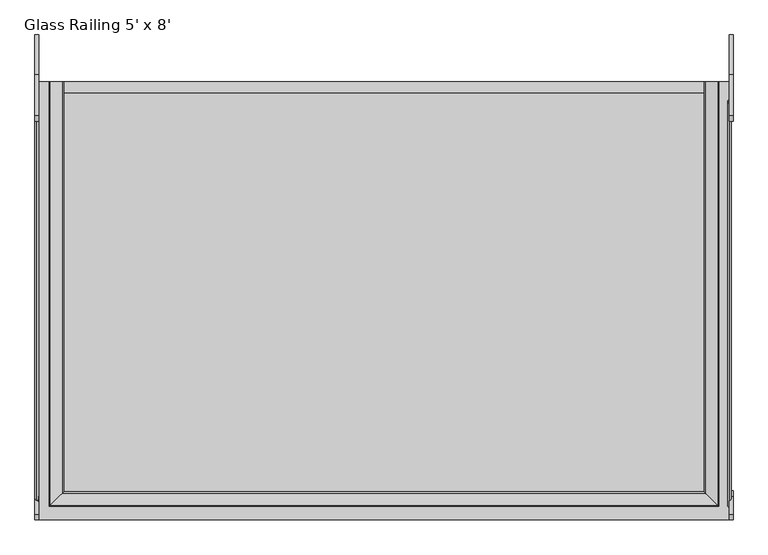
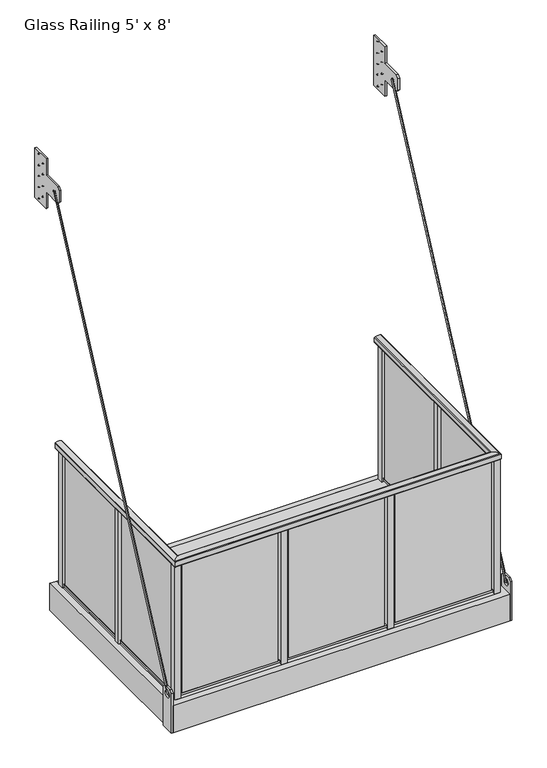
"""IFC4 building model written with IfcOpenShell, lengths in millimetres: proxy geometry, Specialty-Equipment_Endurable-Building-Products_Standard-Balcony : Glass Railing 5' x 8'."""

from ifc_helpers import new_model, si_unit, point, frame, frame_2d, origin, origin_2d, place, context, project, spatial, polyline, circle_curve, ellipse_curve, trimmed, segment, composite_curve, outline, extrude, source, transform, mapped, element, save
from ifc_brep_helpers import plane_surface, cylinder_surface, advanced_brep


def glass_railing_5_x_8_6d0afec7(model_context):
    return source(origin(), model_context, "Body", "SolidModel", [
        extrude(outline(polyline([(25.1129964, 3238.5), (164.8129964, 3238.5), (164.8129964, 2857.5), (25.1129964, 2857.5), (25.1129964, 2984.5), (-120.9370036, 2984.5), (-139.9870036, 3003.55), (-139.9870036, 3092.45), (-120.9370036, 3111.5), (25.1129964, 3111.5), (25.1129964, 3238.5)]), holes=[composite_curve([segment(trimmed(circle_curve(frame_2d((-69.85, 3048.0)), 6.35), [point((-63.5, 3048.0))], [point((-76.2, 3048.0))], True, "CARTESIAN"), True, "CONTINUOUS"), segment(trimmed(circle_curve(frame_2d((-69.85, 3048.0)), 6.35), [point((-76.2, 3048.0))], [point((-63.5, 3048.0))], True, "CARTESIAN"), True, "CONTINUOUS")], self_intersect=False), composite_curve([segment(trimmed(circle_curve(frame_2d((120.3629964, 3048.0)), 2.38125), [point((122.7442464, 3048.0))], [point((117.9817464, 3048.0))], True, "CARTESIAN"), True, "CONTINUOUS"), segment(trimmed(circle_curve(frame_2d((120.3629964, 3048.0)), 2.38125), [point((117.9817464, 3048.0))], [point((122.7442464, 3048.0))], True, "CARTESIAN"), True, "CONTINUOUS")], self_intersect=False), composite_curve([segment(trimmed(circle_curve(frame_2d((120.3629964, 3219.45)), 2.38125), [point((122.7442464, 3219.45))], [point((117.9817464, 3219.45))], True, "CARTESIAN"), True, "CONTINUOUS"), segment(trimmed(circle_curve(frame_2d((120.3629964, 3219.45)), 2.38125), [point((117.9817464, 3219.45))], [point((122.7442464, 3219.45))], True, "CARTESIAN"), True, "CONTINUOUS")], self_intersect=False), composite_curve([segment(trimmed(circle_curve(frame_2d((120.3629964, 2876.55)), 2.38125), [point((122.7442464, 2876.55))], [point((117.9817464, 2876.55))], True, "CARTESIAN"), True, "CONTINUOUS"), segment(trimmed(circle_curve(frame_2d((120.3629964, 2876.55)), 2.38125), [point((117.9817464, 2876.55))], [point((122.7442464, 2876.55))], True, "CARTESIAN"), True, "CONTINUOUS")], self_intersect=False), composite_curve([segment(trimmed(circle_curve(frame_2d((120.3629964, 2965.45)), 2.38125), [point((122.7442464, 2965.45))], [point((117.9817464, 2965.45))], True, "CARTESIAN"), True, "CONTINUOUS"), segment(trimmed(circle_curve(frame_2d((120.3629964, 2965.45)), 2.38125), [point((117.9817464, 2965.45))], [point((122.7442464, 2965.45))], True, "CARTESIAN"), True, "CONTINUOUS")], self_intersect=False), composite_curve([segment(trimmed(circle_curve(frame_2d((120.3629964, 3130.55)), 2.38125), [point((122.7442464, 3130.55))], [point((117.9817464, 3130.55))], True, "CARTESIAN"), True, "CONTINUOUS"), segment(trimmed(circle_curve(frame_2d((120.3629964, 3130.55)), 2.38125), [point((117.9817464, 3130.55))], [point((122.7442464, 3130.55))], True, "CARTESIAN"), True, "CONTINUOUS")], self_intersect=False), composite_curve([segment(trimmed(circle_curve(frame_2d((69.5629964, 3092.45)), 2.38125), [point((71.9442464, 3092.45))], [point((67.1817464, 3092.45))], True, "CARTESIAN"), True, "CONTINUOUS"), segment(trimmed(circle_curve(frame_2d((69.5629964, 3092.45)), 2.38125), [point((67.1817464, 3092.45))], [point((71.9442464, 3092.45))], True, "CARTESIAN"), True, "CONTINUOUS")], self_intersect=False), composite_curve([segment(trimmed(circle_curve(frame_2d((69.5629964, 3175.0)), 2.38125), [point((71.9442464, 3175.0))], [point((67.1817464, 3175.0))], True, "CARTESIAN"), True, "CONTINUOUS"), segment(trimmed(circle_curve(frame_2d((69.5629964, 3175.0)), 2.38125), [point((67.1817464, 3175.0))], [point((71.9442464, 3175.0))], True, "CARTESIAN"), True, "CONTINUOUS")], self_intersect=False), composite_curve([segment(trimmed(circle_curve(frame_2d((69.5629964, 3003.55)), 2.38125), [point((71.9442464, 3003.55))], [point((67.1817464, 3003.55))], True, "CARTESIAN"), True, "CONTINUOUS"), segment(trimmed(circle_curve(frame_2d((69.5629964, 3003.55)), 2.38125), [point((67.1817464, 3003.55))], [point((71.9442464, 3003.55))], True, "CARTESIAN"), True, "CONTINUOUS")], self_intersect=False), composite_curve([segment(trimmed(circle_curve(frame_2d((69.5629964, 2921.0)), 2.38125), [point((71.9442464, 2921.0))], [point((67.1817464, 2921.0))], True, "CARTESIAN"), True, "CONTINUOUS"), segment(trimmed(circle_curve(frame_2d((69.5629964, 2921.0)), 2.38125), [point((67.1817464, 2921.0))], [point((71.9442464, 2921.0))], True, "CARTESIAN"), True, "CONTINUOUS")], self_intersect=False)]), frame((-1231.9, 0.0, 0.0), z_axis=(1.0, 0.0, 0.0), x_axis=(0.0, 1.0, 0.0)), (0.0, 0.0, 1.0), 12.7),
        extrude(outline(polyline([(25.1129964, 3238.5), (164.8129964, 3238.5), (164.8129964, 2857.5), (25.1129964, 2857.5), (25.1129964, 2984.5), (-120.9370036, 2984.5), (-139.9870036, 3003.55), (-139.9870036, 3092.45), (-120.9370036, 3111.5), (25.1129964, 3111.5), (25.1129964, 3238.5)]), holes=[composite_curve([segment(trimmed(circle_curve(frame_2d((-69.85, 3048.0)), 6.35), [point((-63.5, 3048.0))], [point((-76.2, 3048.0))], True, "CARTESIAN"), True, "CONTINUOUS"), segment(trimmed(circle_curve(frame_2d((-69.85, 3048.0)), 6.35), [point((-76.2, 3048.0))], [point((-63.5, 3048.0))], True, "CARTESIAN"), True, "CONTINUOUS")], self_intersect=False), composite_curve([segment(trimmed(circle_curve(frame_2d((120.3629964, 3048.0)), 2.38125), [point((122.7442464, 3048.0))], [point((117.9817464, 3048.0))], True, "CARTESIAN"), True, "CONTINUOUS"), segment(trimmed(circle_curve(frame_2d((120.3629964, 3048.0)), 2.38125), [point((117.9817464, 3048.0))], [point((122.7442464, 3048.0))], True, "CARTESIAN"), True, "CONTINUOUS")], self_intersect=False), composite_curve([segment(trimmed(circle_curve(frame_2d((120.3629964, 3219.45)), 2.38125), [point((122.7442464, 3219.45))], [point((117.9817464, 3219.45))], True, "CARTESIAN"), True, "CONTINUOUS"), segment(trimmed(circle_curve(frame_2d((120.3629964, 3219.45)), 2.38125), [point((117.9817464, 3219.45))], [point((122.7442464, 3219.45))], True, "CARTESIAN"), True, "CONTINUOUS")], self_intersect=False), composite_curve([segment(trimmed(circle_curve(frame_2d((120.3629964, 2876.55)), 2.38125), [point((122.7442464, 2876.55))], [point((117.9817464, 2876.55))], True, "CARTESIAN"), True, "CONTINUOUS"), segment(trimmed(circle_curve(frame_2d((120.3629964, 2876.55)), 2.38125), [point((117.9817464, 2876.55))], [point((122.7442464, 2876.55))], True, "CARTESIAN"), True, "CONTINUOUS")], self_intersect=False), composite_curve([segment(trimmed(circle_curve(frame_2d((120.3629964, 2965.45)), 2.38125), [point((122.7442464, 2965.45))], [point((117.9817464, 2965.45))], True, "CARTESIAN"), True, "CONTINUOUS"), segment(trimmed(circle_curve(frame_2d((120.3629964, 2965.45)), 2.38125), [point((117.9817464, 2965.45))], [point((122.7442464, 2965.45))], True, "CARTESIAN"), True, "CONTINUOUS")], self_intersect=False), composite_curve([segment(trimmed(circle_curve(frame_2d((120.3629964, 3130.55)), 2.38125), [point((122.7442464, 3130.55))], [point((117.9817464, 3130.55))], True, "CARTESIAN"), True, "CONTINUOUS"), segment(trimmed(circle_curve(frame_2d((120.3629964, 3130.55)), 2.38125), [point((117.9817464, 3130.55))], [point((122.7442464, 3130.55))], True, "CARTESIAN"), True, "CONTINUOUS")], self_intersect=False), composite_curve([segment(trimmed(circle_curve(frame_2d((69.5629964, 3092.45)), 2.38125), [point((71.9442464, 3092.45))], [point((67.1817464, 3092.45))], True, "CARTESIAN"), True, "CONTINUOUS"), segment(trimmed(circle_curve(frame_2d((69.5629964, 3092.45)), 2.38125), [point((67.1817464, 3092.45))], [point((71.9442464, 3092.45))], True, "CARTESIAN"), True, "CONTINUOUS")], self_intersect=False), composite_curve([segment(trimmed(circle_curve(frame_2d((69.5629964, 3175.0)), 2.38125), [point((71.9442464, 3175.0))], [point((67.1817464, 3175.0))], True, "CARTESIAN"), True, "CONTINUOUS"), segment(trimmed(circle_curve(frame_2d((69.5629964, 3175.0)), 2.38125), [point((67.1817464, 3175.0))], [point((71.9442464, 3175.0))], True, "CARTESIAN"), True, "CONTINUOUS")], self_intersect=False), composite_curve([segment(trimmed(circle_curve(frame_2d((69.5629964, 3003.55)), 2.38125), [point((71.9442464, 3003.55))], [point((67.1817464, 3003.55))], True, "CARTESIAN"), True, "CONTINUOUS"), segment(trimmed(circle_curve(frame_2d((69.5629964, 3003.55)), 2.38125), [point((67.1817464, 3003.55))], [point((71.9442464, 3003.55))], True, "CARTESIAN"), True, "CONTINUOUS")], self_intersect=False), composite_curve([segment(trimmed(circle_curve(frame_2d((69.5629964, 2921.0)), 2.38125), [point((71.9442464, 2921.0))], [point((67.1817464, 2921.0))], True, "CARTESIAN"), True, "CONTINUOUS"), segment(trimmed(circle_curve(frame_2d((69.5629964, 2921.0)), 2.38125), [point((67.1817464, 2921.0))], [point((71.9442464, 2921.0))], True, "CARTESIAN"), True, "CONTINUOUS")], self_intersect=False)]), frame((1219.2, 0.0, 0.0), z_axis=(1.0, 0.0, 0.0), x_axis=(0.0, 1.0, 0.0)), (0.0, 0.0, 1.0), 12.7),
        extrude(outline(polyline([(-1545.43125, -203.2), (-1545.43125, 96.7382813), (-1526.38125, 115.7882813), (-1462.88125, 115.7882813), (-1443.83125, 96.7382813), (-1443.83125, -203.2), (-1545.43125, -203.2)]), holes=[composite_curve([segment(trimmed(circle_curve(frame_2d((-1494.63125, 64.9882813)), 25.4), [point((-1520.03125, 64.9882813))], [point((-1469.23125, 64.9882813))], True, "CARTESIAN"), True, "CONTINUOUS"), segment(trimmed(circle_curve(frame_2d((-1494.63125, 64.9882813)), 25.4), [point((-1469.23125, 64.9882813))], [point((-1520.03125, 64.9882813))], True, "CARTESIAN"), True, "CONTINUOUS")], self_intersect=False)]), frame((-1231.9, 0.0, 0.0), z_axis=(1.0, 0.0, 0.0), x_axis=(0.0, 1.0, 0.0)), (0.0, 0.0, 1.0), 12.7),
        extrude(outline(polyline([(-1545.43125, -203.2), (-1545.43125, 96.7382812), (-1526.38125, 115.7882812), (-1462.88125, 115.7882812), (-1443.83125, 96.7382812), (-1443.83125, -203.2), (-1545.43125, -203.2)]), holes=[composite_curve([segment(trimmed(circle_curve(frame_2d((-1494.63125, 64.9882812)), 25.4), [point((-1520.03125, 64.9882812))], [point((-1469.23125, 64.9882812))], True, "CARTESIAN"), True, "CONTINUOUS"), segment(trimmed(circle_curve(frame_2d((-1494.63125, 64.9882812)), 25.4), [point((-1469.23125, 64.9882812))], [point((-1520.03125, 64.9882812))], True, "CARTESIAN"), True, "CONTINUOUS")], self_intersect=False)]), frame((1219.2, 0.0, 0.0), z_axis=(1.0, 0.0, 0.0), x_axis=(0.0, 1.0, 0.0)), (0.0, 0.0, 1.0), 12.7),
        extrude(outline(polyline([(542.925, -38.1), (542.925, -1494.63125), (504.825, -1494.63125), (504.825, -38.1), (542.925, -38.1)])), frame((0.0, 0.0, -203.2), z_axis=(0.0, 0.0, 1.0), x_axis=(1.0, 0.0, 0.0)), (0.0, 0.0, 1.0), 177.8),
        extrude(outline(polyline([(19.05, -38.1), (19.05, -1494.63125), (-19.05, -1494.63125), (-19.05, -38.1), (19.05, -38.1)])), frame((0.0, 0.0, -203.2), z_axis=(0.0, 0.0, 1.0), x_axis=(1.0, 0.0, 0.0)), (0.0, 0.0, 1.0), 177.8),
        extrude(outline(polyline([(-504.825, -38.1), (-504.825, -1494.63125), (-542.925, -1494.63125), (-542.925, -38.1), (-504.825, -38.1)])), frame((0.0, 0.0, -203.2), z_axis=(0.0, 0.0, 1.0), x_axis=(1.0, 0.0, 0.0)), (0.0, 0.0, 1.0), 177.8),
        extrude(outline(polyline([(1066.8, -38.1), (1066.8, -1494.63125), (1028.7, -1494.63125), (1028.7, -38.1), (1066.8, -38.1)])), frame((0.0, 0.0, -203.2), z_axis=(0.0, 0.0, 1.0), x_axis=(1.0, 0.0, 0.0)), (0.0, 0.0, 1.0), 177.8),
        extrude(outline(polyline([(1163.6375, -80.9625), (1163.6375, -744.934375), (1147.7625, -744.934375), (1147.7625, -80.9625), (1163.6375, -80.9625)])), frame((0.0, 0.0, 9.525), z_axis=(0.0, 0.0, 1.0), x_axis=(1.0, 0.0, 0.0)), (0.0, 0.0, 1.0), 15.875),
        extrude(outline(polyline([(1163.6375, -787.796875), (1163.6375, -1451.76875), (1147.7625, -1451.76875), (1147.7625, -787.796875), (1163.6375, -787.796875)])), frame((0.0, 0.0, 9.525), z_axis=(0.0, 0.0, 1.0), x_axis=(1.0, 0.0, 0.0)), (0.0, 0.0, 1.0), 15.875),
        extrude(outline(polyline([(-1163.6375, -80.9625), (-1147.7625, -80.9625), (-1147.7625, -744.934375), (-1163.6375, -744.934375), (-1163.6375, -80.9625)])), frame((0.0, 0.0, 9.525), z_axis=(0.0, 0.0, 1.0), x_axis=(1.0, 0.0, 0.0)), (0.0, 0.0, 1.0), 15.875),
        extrude(outline(polyline([(-1163.6375, -787.796875), (-1147.7625, -787.796875), (-1147.7625, -1451.76875), (-1163.6375, -1451.76875), (-1163.6375, -787.796875)])), frame((0.0, 0.0, 9.525), z_axis=(0.0, 0.0, 1.0), x_axis=(1.0, 0.0, 0.0)), (0.0, 0.0, 1.0), 15.875),
        extrude(outline(polyline([(-344.7520833, -1465.2625), (344.7520833, -1465.2625), (344.7520833, -1481.1375), (-344.7520833, -1481.1375), (-344.7520833, -1465.2625)])), frame((0.0, 0.0, 25.4), z_axis=(0.0, 0.0, 1.0), x_axis=(1.0, 0.0, 0.0)), (0.0, 0.0, 1.0), 990.6),
        extrude(outline(polyline([(-363.8020833, -1465.2625), (363.8020833, -1465.2625), (363.8020833, -1481.1375), (-363.8020833, -1481.1375), (-363.8020833, -1465.2625)])), frame((0.0, 0.0, 9.525), z_axis=(0.0, 0.0, 1.0), x_axis=(1.0, 0.0, 0.0)), (0.0, 0.0, 1.0), 15.875),
        extrude(outline(polyline([(-1162.05, -730.646875), (-1162.05, -95.25), (-1149.35, -95.25), (-1149.35, -730.646875), (-1162.05, -730.646875)])), frame((0.0, 0.0, 25.4), z_axis=(0.0, 0.0, 1.0), x_axis=(1.0, 0.0, 0.0)), (0.0, 0.0, 1.0), 990.6),
        extrude(outline(polyline([(1162.05, -730.646875), (1149.35, -730.646875), (1149.35, -95.25), (1162.05, -95.25), (1162.05, -730.646875)])), frame((0.0, 0.0, 25.4), z_axis=(0.0, 0.0, 1.0), x_axis=(1.0, 0.0, 0.0)), (0.0, 0.0, 1.0), 990.6),
        extrude(outline(polyline([(-363.8020833, -1451.76875), (-363.8020833, -1494.63125), (-406.6645833, -1494.63125), (-406.6645833, -1451.76875), (-363.8020833, -1451.76875)])), frame((0.0, 0.0, -203.2), z_axis=(0.0, 0.0, 1.0), x_axis=(1.0, 0.0, 0.0)), (0.0, 0.0, 1.0), 1219.2),
        extrude(outline(polyline([(406.6645833, -1451.76875), (406.6645833, -1494.63125), (363.8020833, -1494.63125), (363.8020833, -1451.76875), (406.6645833, -1451.76875)])), frame((0.0, 0.0, -203.2), z_axis=(0.0, 0.0, 1.0), x_axis=(1.0, 0.0, 0.0)), (0.0, 0.0, 1.0), 1219.2),
        extrude(outline(polyline([(1134.26875, -38.1), (1177.13125, -38.1), (1177.13125, -80.9625), (1134.26875, -80.9625), (1134.26875, -38.1)])), frame((0.0, 0.0, -203.2), z_axis=(0.0, 0.0, 1.0), x_axis=(1.0, 0.0, 0.0)), (0.0, 0.0, 1.0), 1219.2),
        extrude(outline(polyline([(-1134.26875, -38.1), (-1134.26875, -80.9625), (-1177.13125, -80.9625), (-1177.13125, -38.1), (-1134.26875, -38.1)])), frame((0.0, 0.0, -203.2), z_axis=(0.0, 0.0, 1.0), x_axis=(1.0, 0.0, 0.0)), (0.0, 0.0, 1.0), 1219.2),
        extrude(outline(polyline([(1177.13125, -744.934375), (1177.13125, -787.796875), (1134.26875, -787.796875), (1134.26875, -744.934375), (1177.13125, -744.934375)])), frame((0.0, 0.0, -203.2), z_axis=(0.0, 0.0, 1.0), x_axis=(1.0, 0.0, 0.0)), (0.0, 0.0, 1.0), 1219.2),
        extrude(outline(polyline([(-1134.26875, -744.934375), (-1134.26875, -787.796875), (-1177.13125, -787.796875), (-1177.13125, -744.934375), (-1134.26875, -744.934375)])), frame((0.0, 0.0, -203.2), z_axis=(0.0, 0.0, 1.0), x_axis=(1.0, 0.0, 0.0)), (0.0, 0.0, 1.0), 1219.2),
        extrude(outline(polyline([(1168.4, 0.0), (1168.4, -38.1), (-1168.4, -38.1), (-1168.4, 0.0), (1168.4, 0.0)])), frame((0.0, 0.0, -203.2), z_axis=(0.0, 0.0, 1.0), x_axis=(1.0, 0.0, 0.0)), (0.0, 0.0, 1.0), 203.2),
        extrude(outline(polyline([(-1028.7, -38.1), (-1028.7, -1494.63125), (-1066.8, -1494.63125), (-1066.8, -38.1), (-1028.7, -38.1)])), frame((0.0, 0.0, -203.2), z_axis=(0.0, 0.0, 1.0), x_axis=(1.0, 0.0, 0.0)), (0.0, 0.0, 1.0), 177.8),
        extrude(outline(polyline([(1119.98125, -1465.2625), (1119.98125, -1481.1375), (425.7145833, -1481.1375), (425.7145833, -1465.2625), (1119.98125, -1465.2625)])), frame((0.0, 0.0, 25.4), z_axis=(0.0, 0.0, 1.0), x_axis=(1.0, 0.0, 0.0)), (0.0, 0.0, 1.0), 990.6),
        extrude(outline(polyline([(-1119.98125, -1481.1375), (-1119.98125, -1465.2625), (-425.7145833, -1465.2625), (-425.7145833, -1481.1375), (-1119.98125, -1481.1375)])), frame((0.0, 0.0, 25.4), z_axis=(0.0, 0.0, 1.0), x_axis=(1.0, 0.0, 0.0)), (0.0, 0.0, 1.0), 990.6),
        extrude(outline(polyline([(1162.05, -802.084375), (1162.05, -1437.48125), (1149.35, -1437.48125), (1149.35, -802.084375), (1162.05, -802.084375)])), frame((0.0, 0.0, 25.4), z_axis=(0.0, 0.0, 1.0), x_axis=(1.0, 0.0, 0.0)), (0.0, 0.0, 1.0), 990.6),
        extrude(outline(polyline([(-1149.35, -802.084375), (-1149.35, -1451.76875), (-1162.05, -1451.76875), (-1162.05, -802.084375), (-1149.35, -802.084375)])), frame((0.0, 0.0, 25.4), z_axis=(0.0, 0.0, 1.0), x_axis=(1.0, 0.0, 0.0)), (0.0, 0.0, 1.0), 990.6),
        extrude(outline(polyline([(-1134.26875, -1451.76875), (-1134.26875, -1494.63125), (-1177.13125, -1494.63125), (-1177.13125, -1451.76875), (-1134.26875, -1451.76875)])), frame((0.0, 0.0, -203.2), z_axis=(0.0, 0.0, 1.0), x_axis=(1.0, 0.0, 0.0)), (0.0, 0.0, 1.0), 1219.2),
        extrude(outline(polyline([(1177.13125, -1451.76875), (1177.13125, -1494.63125), (1134.26875, -1494.63125), (1134.26875, -1451.76875), (1177.13125, -1451.76875)])), frame((0.0, 0.0, -203.2), z_axis=(0.0, 0.0, 1.0), x_axis=(1.0, 0.0, 0.0)), (0.0, 0.0, 1.0), 1219.2),
        extrude(outline(polyline([(406.6645833, -1465.2625), (1134.26875, -1465.2625), (1134.26875, -1481.1375), (406.6645833, -1481.1375), (406.6645833, -1465.2625)])), frame((0.0, 0.0, 9.525), z_axis=(0.0, 0.0, 1.0), x_axis=(1.0, 0.0, 0.0)), (0.0, 0.0, 1.0), 15.875),
        extrude(outline(polyline([(-406.6645833, -1465.2625), (-406.6645833, -1481.1375), (-1134.26875, -1481.1375), (-1134.26875, -1465.2625), (-406.6645833, -1465.2625)])), frame((0.0, 0.0, 9.525), z_axis=(0.0, 0.0, 1.0), x_axis=(1.0, 0.0, 0.0)), (0.0, 0.0, 1.0), 15.875),
        extrude(outline(polyline([(-1168.4, -1494.63125), (-1168.4, -38.1), (1168.4, -38.1), (1168.4, -1494.63125), (-1168.4, -1494.63125)])), frame((0.0, 0.0, -25.4), z_axis=(0.0, 0.0, 1.0), x_axis=(1.0, 0.0, 0.0)), (0.0, 0.0, 1.0), 25.4),
        extrude(outline(composite_curve([segment(trimmed(circle_curve(frame_2d((-6.35, 0.0)), 6.35), [point((-6.35, 6.35))], [point((-6.35, -6.35))], False, "CARTESIAN"), True, "CONTINUOUS"), segment(trimmed(circle_curve(frame_2d((-6.35, 0.0)), 6.35), [point((-6.35, -6.35))], [point((-6.35, 6.35))], False, "CARTESIAN"), True, "CONTINUOUS")], self_intersect=False)), frame((-1219.2, -1494.63125, 64.9882812), z_axis=(0.0, 0.43099346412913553, 0.9023550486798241), x_axis=(1.0, 0.0, 0.0)), (0.0, 0.0, 1.0), 3305.8070912),
        extrude(outline(composite_curve([segment(trimmed(circle_curve(origin_2d(), 6.35), [point((0.0, 6.35))], [point((0.0, -6.35))], False, "CARTESIAN"), True, "CONTINUOUS"), segment(trimmed(circle_curve(origin_2d(), 6.35), [point((0.0, -6.35))], [point((0.0, 6.35))], False, "CARTESIAN"), True, "CONTINUOUS")], self_intersect=False)), frame((1219.2, -1494.63125, 64.9882812), z_axis=(0.0, 0.4309934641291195, 0.9023550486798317), x_axis=(-1.0, 0.0, 0.0)), (0.0, 0.0, 1.0), 3305.8070912),
        extrude(outline(polyline([(-1219.2, 0.0), (-1168.4, 0.0), (-1168.4, -1494.63125), (1168.4, -1494.63125), (1168.4, 0.0), (1219.2, 0.0), (1219.2, -1545.43125), (-1219.2, -1545.43125), (-1219.2, 0.0)])), frame((0.0, 0.0, -203.2), z_axis=(0.0, 0.0, 1.0), x_axis=(1.0, 0.0, 0.0)), (0.0, 0.0, 1.0), 203.2),
        advanced_brep(
        [(1181.1, 0.0, 1056.4003287), (1181.1, 0.0, 1022.35), (1174.75, 0.0, 1016.0), (1136.65, 0.0, 1016.0), (1130.3, 0.0, 1022.35), (1130.3, 0.0, 1056.4003287), (1134.0669492, 0.0, 1062.2012207), (1177.3330508, 0.0, 1062.2012207), (-1181.1, 0.0, 1056.4003287), (-1177.3330508, 0.0, 1062.2012207), (-1134.0669492, 0.0, 1062.2012207), (-1130.3, 0.0, 1056.4003287), (-1130.3, 0.0, 1022.35), (-1136.65, 0.0, 1016.0), (-1174.75, 0.0, 1016.0), (-1181.1, 0.0, 1022.35), (1181.1, -1498.6, 1056.4003287), (1181.1, -1498.6, 1022.35), (1174.75, -1492.25, 1016.0), (-1174.75, -1492.25, 1016.0), (-1136.65, -1454.15, 1016.0), (1136.65, -1454.15, 1016.0), (1130.3, -1447.8, 1022.35), (1130.3, -1447.8, 1056.4003287), (1134.0669492, -1451.5669492, 1062.2012207), (1177.3330508, -1494.8330508, 1062.2012207), (-1181.1, -1498.6, 1056.4003287), (-1181.1, -1498.6, 1022.35), (-1130.3, -1447.8, 1022.35), (-1130.3, -1447.8, 1056.4003287), (-1134.0669492, -1451.5669492, 1062.2012207), (-1177.3330508, -1494.8330508, 1062.2012207)],
        [
            (0, 1),
            (1, 2, circle_curve(frame((1174.75, 0.0, 1022.35), z_axis=(0.0, 1.0, 0.0), x_axis=(1.0, 0.0, 0.0)), 6.35)),
            (2, 3),
            (3, 4, circle_curve(frame((1136.65, 0.0, 1022.35), z_axis=(0.0, 1.0, 0.0), x_axis=(1.0, 0.0, 0.0)), 6.35)),
            (4, 5),
            (5, 6, circle_curve(frame((1136.65, 0.0, 1056.4003287), z_axis=(0.0, 1.0, 0.0), x_axis=(1.0, 0.0, 0.0)), 6.35)),
            (6, 7, circle_curve(frame((1155.7, 0.0, 1013.61875), z_axis=(0.0, 1.0, 0.0), x_axis=(1.0, 0.0, 0.0)), 53.18125)),
            (7, 0, circle_curve(frame((1174.75, 0.0, 1056.4003287), z_axis=(0.0, 1.0, 0.0), x_axis=(1.0, 0.0, 0.0)), 6.35)),
            (8, 9, circle_curve(frame((-1174.75, 0.0, 1056.4003287), z_axis=(0.0, 1.0, 0.0), x_axis=(-1.0, 0.0, 0.0)), 6.35)),
            (9, 10, circle_curve(frame((-1155.7, 0.0, 1013.61875), z_axis=(0.0, 1.0, 0.0), x_axis=(-1.0, 0.0, 0.0)), 53.18125)),
            (10, 11, circle_curve(frame((-1136.65, 0.0, 1056.4003287), z_axis=(0.0, 1.0, 0.0), x_axis=(-1.0, 0.0, 0.0)), 6.35)),
            (11, 12),
            (12, 13, circle_curve(frame((-1136.65, 0.0, 1022.35), z_axis=(0.0, 1.0, 0.0), x_axis=(-1.0, 0.0, 0.0)), 6.35)),
            (13, 14),
            (14, 15, circle_curve(frame((-1174.75, 0.0, 1022.35), z_axis=(0.0, 1.0, 0.0), x_axis=(-1.0, 0.0, 0.0)), 6.35)),
            (15, 8),
            (0, 16),
            (16, 17),
            (17, 1),
            (17, 18, ellipse_curve(frame((1174.75, -1492.25, 1022.35), z_axis=(0.7071067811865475, 0.7071067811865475, 0.0), x_axis=(-0.7071067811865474, 0.7071067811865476, 0.0)), 8.9802561, 6.35)),
            (18, 2),
            (18, 19),
            (19, 14),
            (13, 20),
            (20, 21),
            (21, 3),
            (21, 22, ellipse_curve(frame((1136.65, -1454.15, 1022.35), z_axis=(0.7071067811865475, 0.7071067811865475, 0.0), x_axis=(-0.7071067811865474, 0.7071067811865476, 0.0)), 8.9802561, 6.35)),
            (22, 4),
            (22, 23),
            (23, 5),
            (23, 24, ellipse_curve(frame((1136.65, -1454.15, 1056.4003287), z_axis=(0.7071067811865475, 0.7071067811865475, 0.0), x_axis=(-0.7071067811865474, 0.7071067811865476, 0.0)), 8.9802561, 6.35)),
            (24, 6),
            (24, 25, ellipse_curve(frame((1155.7, -1473.2, 1013.61875), z_axis=(0.7071067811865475, 0.7071067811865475, 0.0), x_axis=(-0.7071067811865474, 0.7071067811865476, 0.0)), 75.209645, 53.18125)),
            (25, 7),
            (25, 16, ellipse_curve(frame((1174.75, -1492.25, 1056.4003287), z_axis=(0.7071067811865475, 0.7071067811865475, 0.0), x_axis=(-0.7071067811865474, 0.7071067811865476, 0.0)), 8.9802561, 6.35)),
            (16, 26),
            (26, 27),
            (27, 17),
            (27, 19, ellipse_curve(frame((-1174.75, -1492.25, 1022.35), z_axis=(0.7071067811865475, -0.7071067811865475, 0.0), x_axis=(0.7071067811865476, 0.7071067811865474, 0.0)), 8.9802561, 6.35)),
            (20, 28, ellipse_curve(frame((-1136.65, -1454.15, 1022.35), z_axis=(0.7071067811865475, -0.7071067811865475, 0.0), x_axis=(0.7071067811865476, 0.7071067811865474, 0.0)), 8.9802561, 6.35)),
            (28, 22),
            (28, 29),
            (29, 23),
            (29, 30, ellipse_curve(frame((-1136.65, -1454.15, 1056.4003287), z_axis=(0.7071067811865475, -0.7071067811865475, 0.0), x_axis=(0.7071067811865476, 0.7071067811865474, 0.0)), 8.9802561, 6.35)),
            (30, 24),
            (30, 31, ellipse_curve(frame((-1155.7, -1473.2, 1013.61875), z_axis=(0.7071067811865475, -0.7071067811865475, 0.0), x_axis=(0.7071067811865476, 0.7071067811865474, 0.0)), 75.209645, 53.18125)),
            (31, 25),
            (31, 26, ellipse_curve(frame((-1174.75, -1492.25, 1056.4003287), z_axis=(0.7071067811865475, -0.7071067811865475, 0.0), x_axis=(0.7071067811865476, 0.7071067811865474, 0.0)), 8.9802561, 6.35)),
            (26, 8),
            (15, 27),
            (12, 28),
            (11, 29),
            (10, 30),
            (9, 31),
        ],
        [
            plane_surface(frame((1155.7, 0.0, 0.0), z_axis=(0.0, 1.0, 0.0), x_axis=(0.0, 0.0, 1.0))),
            plane_surface(frame((-1155.7, 0.0, 0.0), z_axis=(0.0, 1.0, 0.0), x_axis=(0.0, 0.0, 1.0))),
            plane_surface(frame((1181.1, 0.0, 1056.4003287), z_axis=(1.0, 0.0, 0.0), x_axis=(0.0, -1.0, 0.0))),
            cylinder_surface(frame((1174.75, 0.0, 1022.35), z_axis=(0.0, 1.0, 0.0), x_axis=(1.0, 0.0, 0.0)), 6.35),
            plane_surface(frame((1174.75, 0.0, 1016.0), z_axis=(0.0, 0.0, -1.0), x_axis=(0.0, -1.0, 0.0))),
            cylinder_surface(frame((1136.65, 0.0, 1022.35), z_axis=(0.0, 1.0, 0.0), x_axis=(1.0, 0.0, 0.0)), 6.35),
            plane_surface(frame((1130.3, 0.0, 1022.35), z_axis=(-1.0, 0.0, 0.0), x_axis=(0.0, -1.0, 0.0))),
            cylinder_surface(frame((1136.65, 0.0, 1056.4003287), z_axis=(0.0, 1.0, 0.0), x_axis=(1.0, 0.0, 0.0)), 6.35),
            cylinder_surface(frame((1155.7, 0.0, 1013.61875), z_axis=(0.0, 1.0, 0.0), x_axis=(1.0, 0.0, 0.0)), 53.18125),
            cylinder_surface(frame((1174.75, 0.0, 1056.4003287), z_axis=(0.0, 1.0, 0.0), x_axis=(1.0, 0.0, 0.0)), 6.35),
            plane_surface(frame((1181.1, -1498.6, 1056.4003287), z_axis=(0.0, -1.0, 0.0), x_axis=(-1.0, 0.0, 0.0))),
            cylinder_surface(frame((1155.7, -1492.25, 1022.35), z_axis=(1.0, 0.0, 0.0), x_axis=(0.0, -1.0, 0.0)), 6.35),
            cylinder_surface(frame((1155.7, -1454.15, 1022.35), z_axis=(1.0, 0.0, 0.0), x_axis=(0.0, -1.0, 0.0)), 6.35),
            plane_surface(frame((1130.3, -1447.8, 1022.35), z_axis=(0.0, 1.0, 0.0), x_axis=(-1.0, 0.0, 0.0))),
            cylinder_surface(frame((1155.7, -1454.15, 1056.4003287), z_axis=(1.0, 0.0, 0.0), x_axis=(0.0, -1.0, 0.0)), 6.35),
            cylinder_surface(frame((1155.7, -1473.2, 1013.61875), z_axis=(1.0, 0.0, 0.0), x_axis=(0.0, -1.0, 0.0)), 53.18125),
            cylinder_surface(frame((1155.7, -1492.25, 1056.4003287), z_axis=(1.0, 0.0, 0.0), x_axis=(0.0, -1.0, 0.0)), 6.35),
            plane_surface(frame((-1181.1, -1498.6, 1056.4003287), z_axis=(-1.0, 0.0, 0.0), x_axis=(0.0, 1.0, 0.0))),
            cylinder_surface(frame((-1174.75, -1473.2, 1022.35), z_axis=(0.0, -1.0, 0.0), x_axis=(-1.0, 0.0, 0.0)), 6.35),
            cylinder_surface(frame((-1136.65, -1473.2, 1022.35), z_axis=(0.0, -1.0, 0.0), x_axis=(-1.0, 0.0, 0.0)), 6.35),
            plane_surface(frame((-1130.3, -1447.8, 1022.35), z_axis=(1.0, 0.0, 0.0), x_axis=(0.0, 1.0, 0.0))),
            cylinder_surface(frame((-1136.65, -1473.2, 1056.4003287), z_axis=(0.0, -1.0, 0.0), x_axis=(-1.0, 0.0, 0.0)), 6.35),
            cylinder_surface(frame((-1155.7, -1473.2, 1013.61875), z_axis=(0.0, -1.0, 0.0), x_axis=(-1.0, 0.0, 0.0)), 53.18125),
            cylinder_surface(frame((-1174.75, -1473.2, 1056.4003287), z_axis=(0.0, -1.0, 0.0), x_axis=(-1.0, 0.0, 0.0)), 6.35),
        ],
        [
            (0, [[1, 2, 3, 4, 5, 6, 7, 8]]),
            (1, [[9, 10, 11, 12, 13, 14, 15, 16]]),
            (2, [[-1, 17, 18, 19]]),
            (3, [[-2, -19, 20, 21]]),
            (4, [[-3, -21, 22, 23, -14, 24, 25, 26]]),
            (5, [[-4, -26, 27, 28]]),
            (6, [[-5, -28, 29, 30]]),
            (7, [[-6, -30, 31, 32]]),
            (8, [[-7, -32, 33, 34]]),
            (9, [[-8, -34, 35, -17]]),
            (10, [[-18, 36, 37, 38]]),
            (11, [[-20, -38, 39, -22]]),
            (12, [[-27, -25, 40, 41]]),
            (13, [[-29, -41, 42, 43]]),
            (14, [[-31, -43, 44, 45]]),
            (15, [[-33, -45, 46, 47]]),
            (16, [[-35, -47, 48, -36]]),
            (17, [[-37, 49, -16, 50]]),
            (18, [[-39, -50, -15, -23]]),
            (19, [[-40, -24, -13, 51]]),
            (20, [[-42, -51, -12, 52]]),
            (21, [[-44, -52, -11, 53]]),
            (22, [[-46, -53, -10, 54]]),
            (23, [[-48, -54, -9, -49]]),
        ],
    ),
    ])


if __name__ == "__main__":
    model = new_model("IFC4")
    model_context = context("Model", 3, world=origin())
    ifc_project = project(units=[si_unit("LENGTHUNIT", "METRE", prefix="MILLI")], contexts=[model_context])
    site = spatial("IfcSite", under=ifc_project)
    building = spatial("IfcBuilding", under=site)
    placement = place(None, origin())
    glass_railing_5_x_8_shape = glass_railing_5_x_8_6d0afec7(model_context)
    element("IfcBuildingElementProxy", 1, Name="Specialty-Equipment_Endurable-Building-Products_Standard-Balcony : Glass Railing 5' x 8'", ObjectType="Specialty-Equipment_Endurable-Building-Products_Standard-Balcony : Glass Railing 5' x 8'", at=placement, inside=building, context=model_context, shape_type="MappedRepresentation", body=[
        mapped(glass_railing_5_x_8_shape, transform((0.0, 0.0, 0.0), x_axis=(1.0, 0.0, 0.0), y_axis=(0.0, 1.0, 0.0), z_axis=(0.0, 0.0, 1.0))),
    ])
    save(model, "model.ifc")
